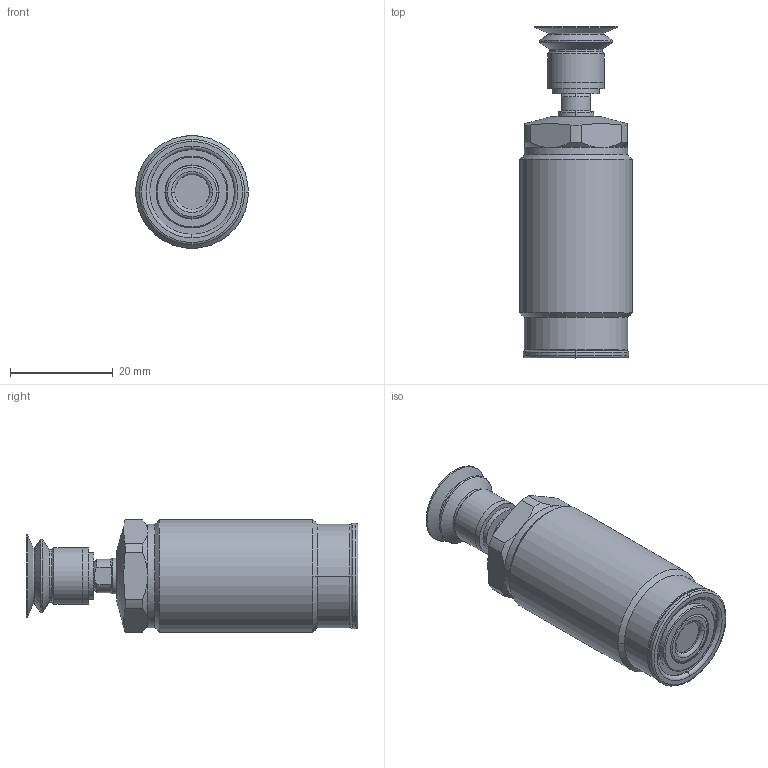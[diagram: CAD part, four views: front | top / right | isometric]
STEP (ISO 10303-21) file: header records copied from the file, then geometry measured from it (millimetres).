
FILE_DESCRIPTION(/* description */ (''),/* implementation_level */ '2;1');
FILE_NAME(/* name */ 'TNL22-D吸附型.stp',/* time_stamp */ '2026-05-28T16:27:12+08:00',/* author */ (''),/* organization */ (''),/* preprocessor_version */ 'ST-DEVELOPER v16.7',/* originating_system */ 'SIEMENS PLM Software NX 12.0',/* authorisation */ '');
FILE_SCHEMA (('AUTOMOTIVE_DESIGN { 1 0 10303 214 3 1 1 1 }'));
Length unit declared in the file: millimetre
Products named in the file (10): XLD-M4_Oring108; 5; 4; 3; 2; TNL22-01110; TNL22-04111; TNL22-02112; TNL22-03113; TNL22_stp
Assembly tree (9 placements, depth 3):
  TNL22_stp
    TNL22-02112
    TNL22-04111
    TNL22-03113
      XLD-M4_Oring108
    TNL22-01110
    2
    3
    4
    5
Bounding box: 22 x 64.7 x 22 mm (x, y, z)
Volume: 17715.6 mm3; surface area: 6948.6 mm2
Topology: 8 solids, 8 shells, 167 faces, 366 edges, 223 vertices
Faces by surface type: cylinder 55, plane 47, torus 32, cone 32, sphere 1
Full cylindrical faces by diameter (mm): 1.2 x2, 2 x1, 4.6 x4, 7.8 x2, 9 x1, 10.2 x1, 11 x2, 16 x1, 20.2 x1, 22 x1
Entity records: 4711 total; most frequent: DIRECTION 853, CARTESIAN_POINT 842, ORIENTED_EDGE 656, AXIS2_PLACEMENT_3D 384, EDGE_CURVE 328, EDGE_LOOP 223, VERTEX_POINT 217, CIRCLE 205
